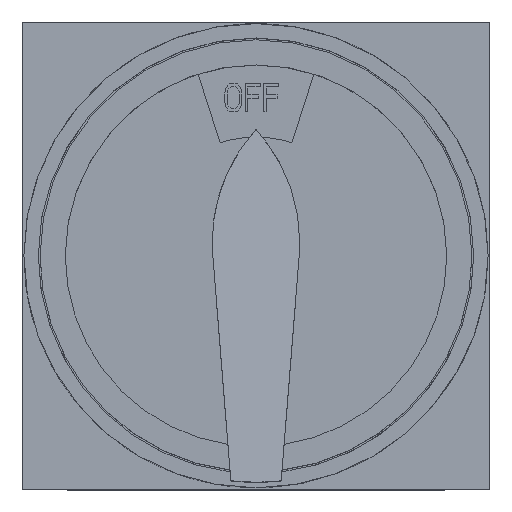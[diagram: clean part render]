
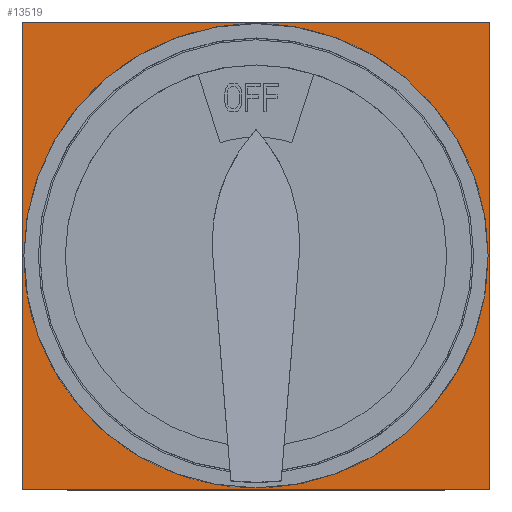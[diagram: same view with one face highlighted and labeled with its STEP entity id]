
A CAD part, top view. The second image highlights one B-rep face of the part: STEP entity #13519.
In plain terms, the highlighted planar face has unit normal (0, 0, 1).
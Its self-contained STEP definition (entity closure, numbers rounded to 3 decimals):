
#167=DIRECTION('',(0.,-1.,0.));
#168=VECTOR('',#167,65.);
#169=CARTESIAN_POINT('',(-39.,32.5,65.));
#170=LINE('',#169,#168);
#171=DIRECTION('',(-1.,0.,0.));
#172=VECTOR('',#171,65.);
#173=CARTESIAN_POINT('',(26.,32.5,65.));
#174=LINE('',#173,#172);
#175=DIRECTION('',(0.,1.,0.));
#176=VECTOR('',#175,65.);
#177=CARTESIAN_POINT('',(26.,-32.5,65.));
#178=LINE('',#177,#176);
#179=DIRECTION('',(1.,0.,0.));
#180=VECTOR('',#179,65.);
#181=CARTESIAN_POINT('',(-39.,-32.5,65.));
#182=LINE('',#181,#180);
#183=CARTESIAN_POINT('',(-6.5,0.,65.));
#184=DIRECTION('',(0.,0.,1.));
#185=DIRECTION('',(-0.124,0.992,0.));
#186=AXIS2_PLACEMENT_3D('',#183,#184,#185);
#188=CARTESIAN_POINT('',(-6.5,0.,65.));
#189=DIRECTION('',(0.,0.,1.));
#190=DIRECTION('',(-1.,0.,0.));
#191=AXIS2_PLACEMENT_3D('',#188,#189,#190);
#193=DIRECTION('',(0.866,0.5,0.));
#194=VECTOR('',#193,1.729);
#195=CARTESIAN_POINT('',(-36.28,-12.379,65.));
#196=LINE('',#195,#194);
#197=DIRECTION('',(0.5,-0.866,0.));
#198=VECTOR('',#197,8.339);
#199=CARTESIAN_POINT('',(-34.782,-11.514,65.));
#200=LINE('',#199,#198);
#201=DIRECTION('',(-0.866,-0.5,0.));
#202=VECTOR('',#201,1.729);
#203=CARTESIAN_POINT('',(-30.613,-18.736,65.));
#204=LINE('',#203,#202);
#205=CARTESIAN_POINT('',(-6.5,0.,65.));
#206=DIRECTION('',(0.,0.,1.));
#207=DIRECTION('',(-0.794,-0.608,0.));
#208=AXIS2_PLACEMENT_3D('',#205,#206,#207);
#210=DIRECTION('',(-0.5,0.866,0.));
#211=VECTOR('',#210,1.61);
#212=CARTESIAN_POINT('',(5.1,-30.092,65.));
#213=LINE('',#212,#211);
#214=DIRECTION('',(0.866,0.5,0.));
#215=VECTOR('',#214,10.);
#216=CARTESIAN_POINT('',(4.295,-28.697,65.));
#217=LINE('',#216,#215);
#218=DIRECTION('',(0.5,-0.866,0.));
#219=VECTOR('',#218,1.61);
#220=CARTESIAN_POINT('',(12.955,-23.697,65.));
#221=LINE('',#220,#219);
#222=CARTESIAN_POINT('',(-6.5,0.,65.));
#223=DIRECTION('',(0.,0.,1.));
#224=DIRECTION('',(0.628,-0.778,0.));
#225=AXIS2_PLACEMENT_3D('',#222,#223,#224);
#227=CARTESIAN_POINT('',(-6.5,0.,65.));
#228=DIRECTION('',(0.,0.,1.));
#229=DIRECTION('',(1.,0.,0.));
#230=AXIS2_PLACEMENT_3D('',#227,#228,#229);
#232=DIRECTION('',(-0.5,-0.866,0.));
#233=VECTOR('',#232,1.61);
#234=CARTESIAN_POINT('',(13.76,25.092,65.));
#235=LINE('',#234,#233);
#236=DIRECTION('',(-0.866,0.5,0.));
#237=VECTOR('',#236,10.);
#238=CARTESIAN_POINT('',(12.955,23.697,65.));
#239=LINE('',#238,#237);
#240=DIRECTION('',(0.5,0.866,0.));
#241=VECTOR('',#240,1.61);
#242=CARTESIAN_POINT('',(4.295,28.697,65.));
#243=LINE('',#242,#241);
#244=CARTESIAN_POINT('',(-6.5,0.,65.));
#245=DIRECTION('',(0.,0.,1.));
#246=DIRECTION('',(0.36,0.933,0.));
#247=AXIS2_PLACEMENT_3D('',#244,#245,#246);
#249=DIRECTION('',(0.,-1.,0.));
#250=VECTOR('',#249,1.751);
#251=CARTESIAN_POINT('',(-2.5,32.001,65.));
#252=LINE('',#251,#250);
#253=DIRECTION('',(-1.,0.,0.));
#254=VECTOR('',#253,8.);
#255=CARTESIAN_POINT('',(-2.5,30.25,65.));
#256=LINE('',#255,#254);
#1581=DIRECTION('',(0.,-1.,0.));
#1582=VECTOR('',#1581,1.751);
#1583=CARTESIAN_POINT('',(-10.5,32.001,65.));
#1584=LINE('',#1583,#1582);
#11526=CARTESIAN_POINT('',(13.76,25.092,65.));
#11527=CARTESIAN_POINT('',(12.955,23.697,65.));
#11528=VERTEX_POINT('',#11526);
#11529=VERTEX_POINT('',#11527);
#11530=CARTESIAN_POINT('',(4.295,28.697,65.));
#11531=CARTESIAN_POINT('',(5.1,30.092,65.));
#11532=VERTEX_POINT('',#11530);
#11533=VERTEX_POINT('',#11531);
#11534=CARTESIAN_POINT('',(-2.5,32.001,65.));
#11535=VERTEX_POINT('',#11534);
#11536=CARTESIAN_POINT('',(-2.5,30.25,65.));
#11537=VERTEX_POINT('',#11536);
#11538=CARTESIAN_POINT('',(-10.5,32.001,65.));
#11539=CARTESIAN_POINT('',(-10.5,30.25,65.));
#11540=VERTEX_POINT('',#11538);
#11541=VERTEX_POINT('',#11539);
#11546=CARTESIAN_POINT('',(25.75,0.,65.));
#11548=VERTEX_POINT('',#11546);
#11552=CARTESIAN_POINT('',(-38.75,0.,65.));
#11553=VERTEX_POINT('',#11552);
#11563=CARTESIAN_POINT('',(-36.28,-12.379,65.));
#11565=VERTEX_POINT('',#11563);
#11566=CARTESIAN_POINT('',(13.76,-25.092,65.));
#11568=VERTEX_POINT('',#11566);
#11572=CARTESIAN_POINT('',(5.1,-30.092,65.));
#11573=VERTEX_POINT('',#11572);
#11574=CARTESIAN_POINT('',(-32.11,-19.6,65.));
#11576=VERTEX_POINT('',#11574);
#11580=CARTESIAN_POINT('',(-34.782,-11.514,65.));
#11581=VERTEX_POINT('',#11580);
#11584=CARTESIAN_POINT('',(-30.613,-18.736,65.));
#11585=VERTEX_POINT('',#11584);
#11586=CARTESIAN_POINT('',(4.295,-28.697,65.));
#11587=VERTEX_POINT('',#11586);
#11588=CARTESIAN_POINT('',(12.955,-23.697,65.));
#11589=VERTEX_POINT('',#11588);
#13028=CARTESIAN_POINT('',(-39.,32.5,65.));
#13029=CARTESIAN_POINT('',(-39.,-32.5,65.));
#13030=VERTEX_POINT('',#13028);
#13031=VERTEX_POINT('',#13029);
#13032=CARTESIAN_POINT('',(26.,-32.5,65.));
#13033=VERTEX_POINT('',#13032);
#13034=CARTESIAN_POINT('',(26.,32.5,65.));
#13035=VERTEX_POINT('',#13034);
#13467=CARTESIAN_POINT('',(0.,0.,65.));
#13468=DIRECTION('',(0.,0.,1.));
#13469=DIRECTION('',(1.,0.,0.));
#13470=AXIS2_PLACEMENT_3D('',#13467,#13468,#13469);
#13471=PLANE('',#13470);
#13472=ORIENTED_EDGE('',*,*,#13457,.F.);
#13474=ORIENTED_EDGE('',*,*,#13473,.F.);
#13476=ORIENTED_EDGE('',*,*,#13475,.F.);
#13478=ORIENTED_EDGE('',*,*,#13477,.F.);
#13479=EDGE_LOOP('',(#13472,#13474,#13476,#13478));
#13480=FACE_OUTER_BOUND('',#13479,.F.);
#13482=ORIENTED_EDGE('',*,*,#13481,.T.);
#13484=ORIENTED_EDGE('',*,*,#13483,.T.);
#13486=ORIENTED_EDGE('',*,*,#13485,.T.);
#13488=ORIENTED_EDGE('',*,*,#13487,.T.);
#13490=ORIENTED_EDGE('',*,*,#13489,.T.);
#13492=ORIENTED_EDGE('',*,*,#13491,.T.);
#13494=ORIENTED_EDGE('',*,*,#13493,.T.);
#13496=ORIENTED_EDGE('',*,*,#13495,.T.);
#13498=ORIENTED_EDGE('',*,*,#13497,.T.);
#13500=ORIENTED_EDGE('',*,*,#13499,.T.);
#13502=ORIENTED_EDGE('',*,*,#13501,.T.);
#13504=ORIENTED_EDGE('',*,*,#13503,.T.);
#13506=ORIENTED_EDGE('',*,*,#13505,.T.);
#13508=ORIENTED_EDGE('',*,*,#13507,.T.);
#13510=ORIENTED_EDGE('',*,*,#13509,.T.);
#13512=ORIENTED_EDGE('',*,*,#13511,.T.);
#13514=ORIENTED_EDGE('',*,*,#13513,.T.);
#13516=ORIENTED_EDGE('',*,*,#13515,.F.);
#13517=EDGE_LOOP('',(#13482,#13484,#13486,#13488,#13490,#13492,#13494,#13496,
#13498,#13500,#13502,#13504,#13506,#13508,#13510,#13512,#13514,#13516));
#13518=FACE_BOUND('',#13517,.F.);
#13519=ADVANCED_FACE('',(#13480,#13518),#13471,.T.);
#187=CIRCLE('',#186,32.25);
#192=CIRCLE('',#191,32.25);
#209=CIRCLE('',#208,32.25);
#226=CIRCLE('',#225,32.25);
#231=CIRCLE('',#230,32.25);
#248=CIRCLE('',#247,32.25);
#13457=EDGE_CURVE('',#13030,#13031,#170,.T.);
#13473=EDGE_CURVE('',#13035,#13030,#174,.T.);
#13475=EDGE_CURVE('',#13033,#13035,#178,.T.);
#13477=EDGE_CURVE('',#13031,#13033,#182,.T.);
#13481=EDGE_CURVE('',#11540,#11553,#187,.T.);
#13483=EDGE_CURVE('',#11553,#11565,#192,.T.);
#13485=EDGE_CURVE('',#11565,#11581,#196,.T.);
#13487=EDGE_CURVE('',#11581,#11585,#200,.T.);
#13489=EDGE_CURVE('',#11585,#11576,#204,.T.);
#13491=EDGE_CURVE('',#11576,#11573,#209,.T.);
#13493=EDGE_CURVE('',#11573,#11587,#213,.T.);
#13495=EDGE_CURVE('',#11587,#11589,#217,.T.);
#13497=EDGE_CURVE('',#11589,#11568,#221,.T.);
#13499=EDGE_CURVE('',#11568,#11548,#226,.T.);
#13501=EDGE_CURVE('',#11548,#11528,#231,.T.);
#13503=EDGE_CURVE('',#11528,#11529,#235,.T.);
#13505=EDGE_CURVE('',#11529,#11532,#239,.T.);
#13507=EDGE_CURVE('',#11532,#11533,#243,.T.);
#13509=EDGE_CURVE('',#11533,#11535,#248,.T.);
#13511=EDGE_CURVE('',#11535,#11537,#252,.T.);
#13513=EDGE_CURVE('',#11537,#11541,#256,.T.);
#13515=EDGE_CURVE('',#11540,#11541,#1584,.T.);
